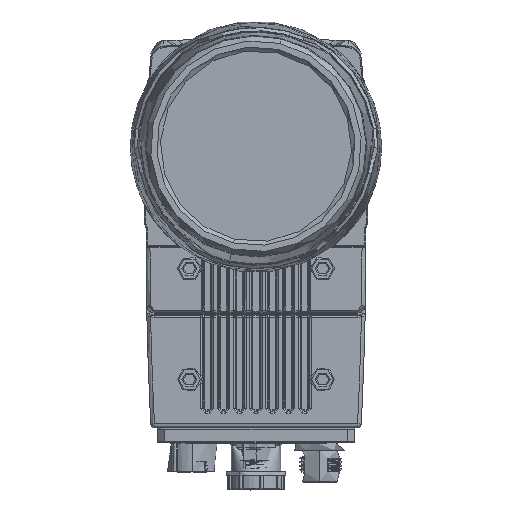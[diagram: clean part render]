
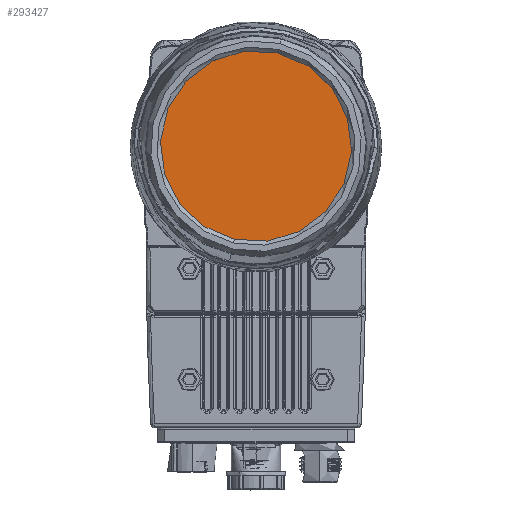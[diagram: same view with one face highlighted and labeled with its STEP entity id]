
A CAD part, top view. The second image highlights one B-rep face of the part: STEP entity #293427.
In plain terms, the highlighted planar face has unit normal (0, 0, 1).
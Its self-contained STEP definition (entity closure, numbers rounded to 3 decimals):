
#10763 = CARTESIAN_POINT ( 'NONE',  ( 28.609, -0.963, 84.85 ) ) ;
#24409 = CIRCLE ( 'NONE', #192075, 28.625 ) ;
#40003 = CARTESIAN_POINT ( 'NONE',  ( -28.609, 0.963, 84.85 ) ) ;
#47536 = CARTESIAN_POINT ( 'NONE',  ( 0., 0., 84.85 ) ) ;
#55933 = AXIS2_PLACEMENT_3D ( 'NONE', #47536, #233687, #142592 ) ;
#65903 = DIRECTION ( 'NONE',  ( 0.999, -0.034, 0. ) ) ;
#77333 = DIRECTION ( 'NONE',  ( 0.999, -0.034, 0. ) ) ;
#78635 = DIRECTION ( 'NONE',  ( 0., 0., 1. ) ) ;
#96583 = CARTESIAN_POINT ( 'NONE',  ( 0., 0., 84.85 ) ) ;
#119313 = VERTEX_POINT ( 'NONE', #10763 ) ;
#120207 = EDGE_CURVE ( 'NONE', #119313, #345477, #238085, .T. ) ;
#138977 = PLANE ( 'NONE',  #276453 ) ;
#142592 = DIRECTION ( 'NONE',  ( 0.999, -0.034, 0. ) ) ;
#186474 = ORIENTED_EDGE ( 'NONE', *, *, #201868, .T. ) ;
#192075 = AXIS2_PLACEMENT_3D ( 'NONE', #96583, #281467, #65903 ) ;
#201868 = EDGE_CURVE ( 'NONE', #345477, #119313, #24409, .T. ) ;
#233687 = DIRECTION ( 'NONE',  ( 0., 0., 1. ) ) ;
#238085 = CIRCLE ( 'NONE', #55933, 28.625 ) ;
#261829 = ORIENTED_EDGE ( 'NONE', *, *, #120207, .T. ) ;
#276453 = AXIS2_PLACEMENT_3D ( 'NONE', #352038, #78635, #77333 ) ;
#281467 = DIRECTION ( 'NONE',  ( 0., 0., 1. ) ) ;
#293427 = ADVANCED_FACE ( 'NONE', ( #316347 ), #138977, .T. ) ;
#316347 = FACE_OUTER_BOUND ( 'NONE', #318012, .T. ) ;
#318012 = EDGE_LOOP ( 'NONE', ( #186474, #261829 ) ) ;
#345477 = VERTEX_POINT ( 'NONE', #40003 ) ;
#352038 = CARTESIAN_POINT ( 'NONE',  ( 0., 0., 84.85 ) ) ;
